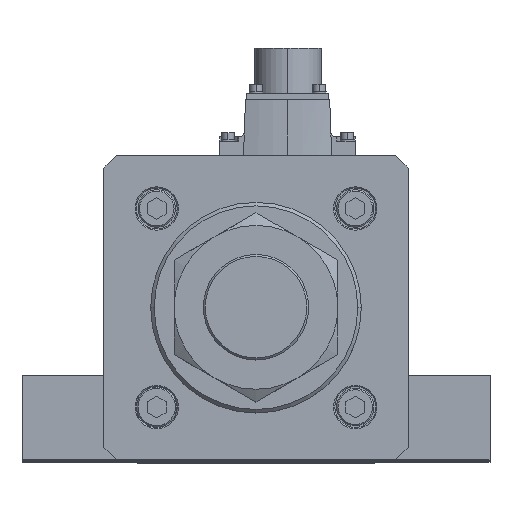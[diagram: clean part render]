
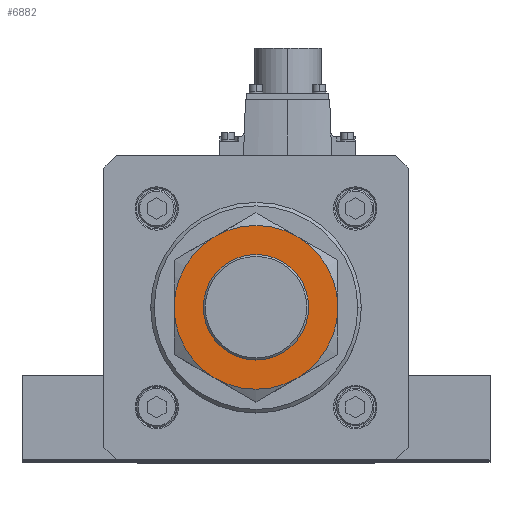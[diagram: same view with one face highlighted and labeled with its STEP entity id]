
A CAD part, top view. The second image highlights one B-rep face of the part: STEP entity #6882.
In plain terms, the highlighted planar face has unit normal (0, 0, 1).
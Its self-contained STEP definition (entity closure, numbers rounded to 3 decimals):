
#640 = EDGE_CURVE ( 'NONE', #24567, #14890, #13048, .T. ) ;
#1783 = VERTEX_POINT ( 'NONE', #25282 ) ;
#1981 = DIRECTION ( 'NONE',  ( 0., 0., -1. ) ) ;
#3845 = CARTESIAN_POINT ( 'NONE',  ( 0., 0., 27. ) ) ;
#3855 = ORIENTED_EDGE ( 'NONE', *, *, #12093, .F. ) ;
#3928 = VERTEX_POINT ( 'NONE', #22553 ) ;
#4067 = EDGE_CURVE ( 'NONE', #1783, #29246, #35952, .T. ) ;
#4259 = AXIS2_PLACEMENT_3D ( 'NONE', #9447, #36061, #9566 ) ;
#4311 = AXIS2_PLACEMENT_3D ( 'NONE', #3845, #12358, #6553 ) ;
#4753 = EDGE_CURVE ( 'NONE', #6299, #24567, #27971, .T. ) ;
#4825 = DIRECTION ( 'NONE',  ( 0., 0., 1. ) ) ;
#5231 = AXIS2_PLACEMENT_3D ( 'NONE', #10065, #30296, #30679 ) ;
#6299 = VERTEX_POINT ( 'NONE', #9205 ) ;
#6553 = DIRECTION ( 'NONE',  ( 1., 0., 0. ) ) ;
#6882 = ADVANCED_FACE ( 'NONE', ( #36245, #27811 ), #33282, .T. ) ;
#6950 = CIRCLE ( 'NONE', #5231, 35. ) ;
#7194 = AXIS2_PLACEMENT_3D ( 'NONE', #8177, #4825, #28793 ) ;
#7563 = CARTESIAN_POINT ( 'NONE',  ( -22.5, 0., 27. ) ) ;
#7869 = VERTEX_POINT ( 'NONE', #34991 ) ;
#8177 = CARTESIAN_POINT ( 'NONE',  ( 0., 0., 27. ) ) ;
#8911 = AXIS2_PLACEMENT_3D ( 'NONE', #10765, #1981, #31369 ) ;
#8939 = CARTESIAN_POINT ( 'NONE',  ( 17.5, 30.311, 27. ) ) ;
#9205 = CARTESIAN_POINT ( 'NONE',  ( -17.5, -30.311, 27. ) ) ;
#9447 = CARTESIAN_POINT ( 'NONE',  ( 0., 0., 27. ) ) ;
#9566 = DIRECTION ( 'NONE',  ( -1., 0., 0. ) ) ;
#10049 = DIRECTION ( 'NONE',  ( -1., 0., 0. ) ) ;
#10065 = CARTESIAN_POINT ( 'NONE',  ( 0., 0., 27. ) ) ;
#10765 = CARTESIAN_POINT ( 'NONE',  ( 0., 0., 27. ) ) ;
#11655 = EDGE_CURVE ( 'NONE', #3928, #7869, #29106, .T. ) ;
#11772 = ORIENTED_EDGE ( 'NONE', *, *, #4067, .F. ) ;
#12093 = EDGE_CURVE ( 'NONE', #27128, #3928, #6950, .T. ) ;
#12358 = DIRECTION ( 'NONE',  ( 0., 0., 1. ) ) ;
#13048 = CIRCLE ( 'NONE', #19217, 35. ) ;
#13911 = CARTESIAN_POINT ( 'NONE',  ( 0., 0., 27. ) ) ;
#14062 = AXIS2_PLACEMENT_3D ( 'NONE', #13911, #34549, #16868 ) ;
#14310 = DIRECTION ( 'NONE',  ( 0., 0., -1. ) ) ;
#14812 = CIRCLE ( 'NONE', #14062, 35. ) ;
#14890 = VERTEX_POINT ( 'NONE', #28373 ) ;
#16600 = DIRECTION ( 'NONE',  ( 0., 0., 1. ) ) ;
#16868 = DIRECTION ( 'NONE',  ( -1., 0., 0. ) ) ;
#17497 = EDGE_CURVE ( 'NONE', #14890, #27128, #14812, .T. ) ;
#17751 = ORIENTED_EDGE ( 'NONE', *, *, #26175, .F. ) ;
#18504 = DIRECTION ( 'NONE',  ( 0., 0., -1. ) ) ;
#18925 = DIRECTION ( 'NONE',  ( 1., 0., 0. ) ) ;
#19217 = AXIS2_PLACEMENT_3D ( 'NONE', #28961, #14310, #10049 ) ;
#21446 = ORIENTED_EDGE ( 'NONE', *, *, #17497, .F. ) ;
#22553 = CARTESIAN_POINT ( 'NONE',  ( 35., 0., 27. ) ) ;
#22881 = ORIENTED_EDGE ( 'NONE', *, *, #11655, .F. ) ;
#24567 = VERTEX_POINT ( 'NONE', #27060 ) ;
#25186 = CARTESIAN_POINT ( 'NONE',  ( 0., 0., 27. ) ) ;
#25282 = CARTESIAN_POINT ( 'NONE',  ( 22.5, 0., 27. ) ) ;
#25631 = AXIS2_PLACEMENT_3D ( 'NONE', #25186, #16600, #18925 ) ;
#26175 = EDGE_CURVE ( 'NONE', #29246, #1783, #28326, .T. ) ;
#27060 = CARTESIAN_POINT ( 'NONE',  ( -35., 0., 27. ) ) ;
#27128 = VERTEX_POINT ( 'NONE', #8939 ) ;
#27811 = FACE_BOUND ( 'NONE', #32147, .T. ) ;
#27971 = CIRCLE ( 'NONE', #4259, 35. ) ;
#28326 = CIRCLE ( 'NONE', #25631, 22.5 ) ;
#28373 = CARTESIAN_POINT ( 'NONE',  ( -17.5, 30.311, 27. ) ) ;
#28793 = DIRECTION ( 'NONE',  ( 1., 0., 0. ) ) ;
#28961 = CARTESIAN_POINT ( 'NONE',  ( 0., 0., 27. ) ) ;
#29106 = CIRCLE ( 'NONE', #30905, 35. ) ;
#29246 = VERTEX_POINT ( 'NONE', #7563 ) ;
#30296 = DIRECTION ( 'NONE',  ( 0., 0., -1. ) ) ;
#30351 = CARTESIAN_POINT ( 'NONE',  ( 0., 0., 27. ) ) ;
#30679 = DIRECTION ( 'NONE',  ( -1., 0., 0. ) ) ;
#30805 = ORIENTED_EDGE ( 'NONE', *, *, #640, .F. ) ;
#30905 = AXIS2_PLACEMENT_3D ( 'NONE', #30351, #18504, #33365 ) ;
#30935 = EDGE_CURVE ( 'NONE', #7869, #6299, #34670, .T. ) ;
#31075 = ORIENTED_EDGE ( 'NONE', *, *, #4753, .F. ) ;
#31369 = DIRECTION ( 'NONE',  ( -1., 0., 0. ) ) ;
#32147 = EDGE_LOOP ( 'NONE', ( #17751, #11772 ) ) ;
#33282 = PLANE ( 'NONE',  #4311 ) ;
#33365 = DIRECTION ( 'NONE',  ( -1., 0., 0. ) ) ;
#34549 = DIRECTION ( 'NONE',  ( 0., 0., -1. ) ) ;
#34670 = CIRCLE ( 'NONE', #8911, 35. ) ;
#34991 = CARTESIAN_POINT ( 'NONE',  ( 17.5, -30.311, 27. ) ) ;
#35952 = CIRCLE ( 'NONE', #7194, 22.5 ) ;
#35961 = EDGE_LOOP ( 'NONE', ( #22881, #3855, #21446, #30805, #31075, #36000 ) ) ;
#36000 = ORIENTED_EDGE ( 'NONE', *, *, #30935, .F. ) ;
#36061 = DIRECTION ( 'NONE',  ( 0., 0., -1. ) ) ;
#36245 = FACE_OUTER_BOUND ( 'NONE', #35961, .T. ) ;
